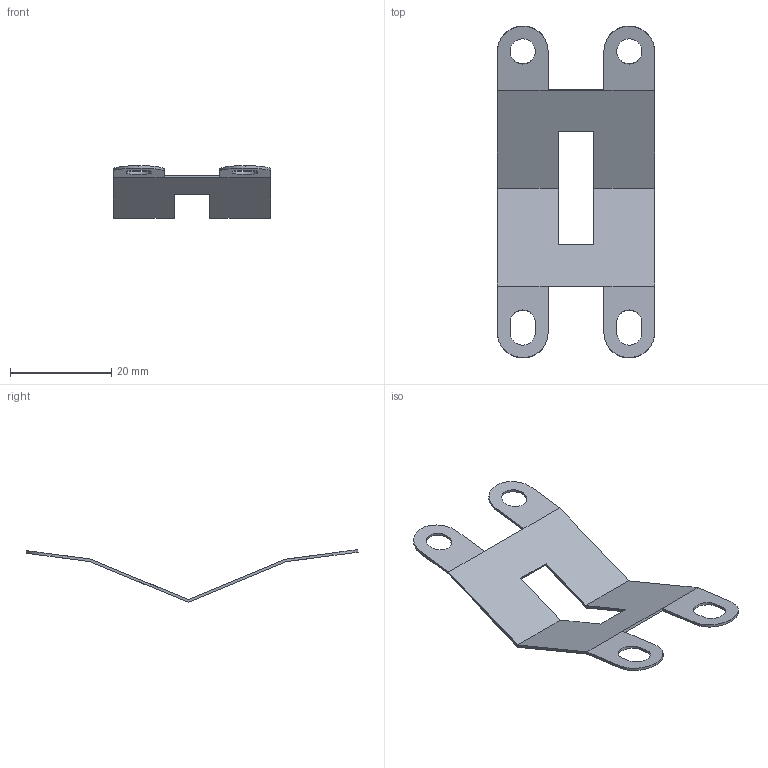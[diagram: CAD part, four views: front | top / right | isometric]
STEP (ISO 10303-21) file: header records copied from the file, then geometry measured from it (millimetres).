
FILE_DESCRIPTION((''),'2;1');
FILE_NAME('2503642a.stp','2001-10-26T14:45:34',(''),(''),'AutoCAD STEP 2000i','AutoCAD 2000i',', , ');
FILE_SCHEMA(('CONFIG_CONTROL_DESIGN'));
Length unit declared in the file: millimetre
Products named in the file (2): 2503642AA; 2503642A
Assembly tree (1 placements, depth 2):
  2503642AA
    2503642A
Bounding box: 31 x 65.5 x 10.4 mm (x, y, z)
Volume: 775.6 mm3; surface area: 3241.4 mm2
Topology: 1 solids, 1 shells, 44 faces, 127 edges, 83 vertices
Faces by surface type: plane 28, cylinder 16
Entity records: 1563 total; most frequent: DIRECTION 254, CARTESIAN_POINT 253, ORIENTED_EDGE 248, EDGE_CURVE 124, VECTOR 92, LINE 92, AXIS2_PLACEMENT_3D 81, VERTEX_POINT 80
